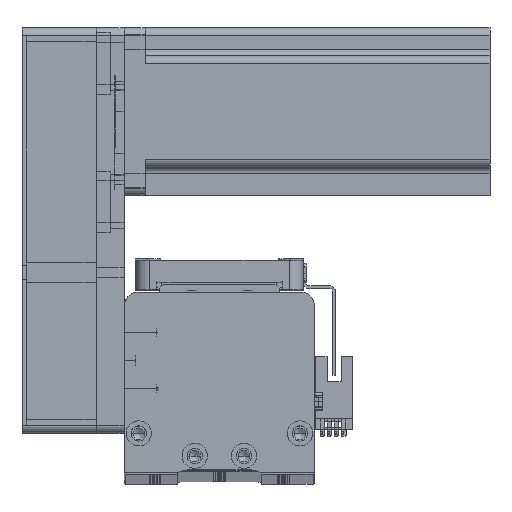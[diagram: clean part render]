
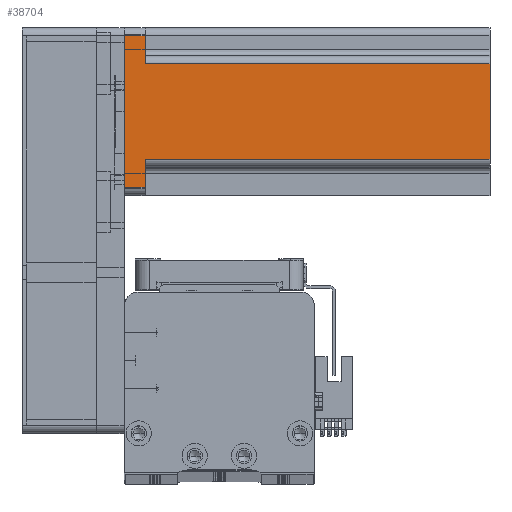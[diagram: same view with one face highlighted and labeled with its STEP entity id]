
A CAD part, top view. The second image highlights one B-rep face of the part: STEP entity #38704.
In plain terms, the highlighted planar face has unit normal (0, 0, 1) as drawn and (0, 1, 0) by its records, which use the part's own axes.
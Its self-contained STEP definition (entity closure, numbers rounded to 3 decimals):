
#76 = CARTESIAN_POINT ( 'NONE',  ( 20., 30., 7.5 ) ) ;
#500 = CARTESIAN_POINT ( 'NONE',  ( 30., 30., 130.7 ) ) ;
#1066 = CARTESIAN_POINT ( 'NONE',  ( -27., 30., 7.5 ) ) ;
#3757 = DIRECTION ( 'NONE',  ( 0., 0., 1. ) ) ;
#4308 = VECTOR ( 'NONE', #53004, 1000. ) ;
#5416 = ORIENTED_EDGE ( 'NONE', *, *, #10048, .F. ) ;
#5814 = EDGE_CURVE ( 'NONE', #35598, #39224, #46208, .T. ) ;
#5854 = LINE ( 'NONE', #500, #51336 ) ;
#6119 = VECTOR ( 'NONE', #15305, 1000. ) ;
#6397 = CARTESIAN_POINT ( 'NONE',  ( 30., 30., 0. ) ) ;
#6761 = CARTESIAN_POINT ( 'NONE',  ( 27., 30., 130.7 ) ) ;
#8006 = LINE ( 'NONE', #42534, #43173 ) ;
#9018 = CARTESIAN_POINT ( 'NONE',  ( 17., 30., 130.7 ) ) ;
#9702 = VECTOR ( 'NONE', #55732, 1000. ) ;
#10048 = EDGE_CURVE ( 'NONE', #16782, #31398, #16131, .T. ) ;
#10065 = CARTESIAN_POINT ( 'NONE',  ( 27., 30., 7.5 ) ) ;
#10727 = CARTESIAN_POINT ( 'NONE',  ( 17., 30., 130.7 ) ) ;
#10903 = EDGE_CURVE ( 'NONE', #55627, #35598, #8006, .T. ) ;
#12354 = VECTOR ( 'NONE', #28520, 1000. ) ;
#13642 = CARTESIAN_POINT ( 'NONE',  ( -17., 30., 130.7 ) ) ;
#14096 = EDGE_CURVE ( 'NONE', #19092, #39224, #5854, .T. ) ;
#15305 = DIRECTION ( 'NONE',  ( -1., 0., 0. ) ) ;
#16131 = LINE ( 'NONE', #76, #4308 ) ;
#16237 = FACE_OUTER_BOUND ( 'NONE', #50377, .T. ) ;
#16782 = VERTEX_POINT ( 'NONE', #10065 ) ;
#17917 = ORIENTED_EDGE ( 'NONE', *, *, #54609, .T. ) ;
#18406 = CARTESIAN_POINT ( 'NONE',  ( 30., 30., 130.7 ) ) ;
#19092 = VERTEX_POINT ( 'NONE', #9018 ) ;
#20148 = DIRECTION ( 'NONE',  ( 0., 0., -1. ) ) ;
#21297 = AXIS2_PLACEMENT_3D ( 'NONE', #18406, #49101, #22836 ) ;
#21317 = CARTESIAN_POINT ( 'NONE',  ( 27., 30., 0. ) ) ;
#22836 = DIRECTION ( 'NONE',  ( 1., 0., 0. ) ) ;
#23688 = VERTEX_POINT ( 'NONE', #21317 ) ;
#24174 = LINE ( 'NONE', #10727, #12354 ) ;
#24198 = VECTOR ( 'NONE', #20148, 1000. ) ;
#26522 = EDGE_CURVE ( 'NONE', #16782, #23688, #35836, .T. ) ;
#27935 = ORIENTED_EDGE ( 'NONE', *, *, #10903, .T. ) ;
#28520 = DIRECTION ( 'NONE',  ( 0., 0., -1. ) ) ;
#31307 = PLANE ( 'NONE',  #21297 ) ;
#31398 = VERTEX_POINT ( 'NONE', #38295 ) ;
#34656 = CARTESIAN_POINT ( 'NONE',  ( -27., 30., 130.7 ) ) ;
#35598 = VERTEX_POINT ( 'NONE', #48231 ) ;
#35836 = LINE ( 'NONE', #6761, #24198 ) ;
#37561 = ORIENTED_EDGE ( 'NONE', *, *, #51591, .T. ) ;
#38295 = CARTESIAN_POINT ( 'NONE',  ( 17., 30., 7.5 ) ) ;
#38704 = ADVANCED_FACE ( 'NONE', ( #16237 ), #31307, .F. ) ;
#38914 = VERTEX_POINT ( 'NONE', #55660 ) ;
#39224 = VERTEX_POINT ( 'NONE', #13642 ) ;
#40703 = VECTOR ( 'NONE', #3757, 1000. ) ;
#42534 = CARTESIAN_POINT ( 'NONE',  ( -20., 30., 7.5 ) ) ;
#43173 = VECTOR ( 'NONE', #55658, 1000. ) ;
#44607 = DIRECTION ( 'NONE',  ( -1., 0., 0. ) ) ;
#44966 = EDGE_CURVE ( 'NONE', #38914, #55627, #52347, .T. ) ;
#45703 = ORIENTED_EDGE ( 'NONE', *, *, #26522, .T. ) ;
#46208 = LINE ( 'NONE', #55549, #9702 ) ;
#48231 = CARTESIAN_POINT ( 'NONE',  ( -17., 30., 7.5 ) ) ;
#49101 = DIRECTION ( 'NONE',  ( 0., -1., 0. ) ) ;
#49336 = ORIENTED_EDGE ( 'NONE', *, *, #44966, .T. ) ;
#50377 = EDGE_LOOP ( 'NONE', ( #27935, #55967, #50820, #17917, #5416, #45703, #37561, #49336 ) ) ;
#50820 = ORIENTED_EDGE ( 'NONE', *, *, #14096, .F. ) ;
#51336 = VECTOR ( 'NONE', #44607, 1000. ) ;
#51587 = LINE ( 'NONE', #6397, #6119 ) ;
#51591 = EDGE_CURVE ( 'NONE', #23688, #38914, #51587, .T. ) ;
#52347 = LINE ( 'NONE', #34656, #40703 ) ;
#53004 = DIRECTION ( 'NONE',  ( -1., 0., 0. ) ) ;
#54609 = EDGE_CURVE ( 'NONE', #19092, #31398, #24174, .T. ) ;
#55549 = CARTESIAN_POINT ( 'NONE',  ( -17., 30., 130.7 ) ) ;
#55627 = VERTEX_POINT ( 'NONE', #1066 ) ;
#55658 = DIRECTION ( 'NONE',  ( 1., 0., 0. ) ) ;
#55660 = CARTESIAN_POINT ( 'NONE',  ( -27., 30., 0. ) ) ;
#55732 = DIRECTION ( 'NONE',  ( 0., 0., 1. ) ) ;
#55967 = ORIENTED_EDGE ( 'NONE', *, *, #5814, .T. ) ;
